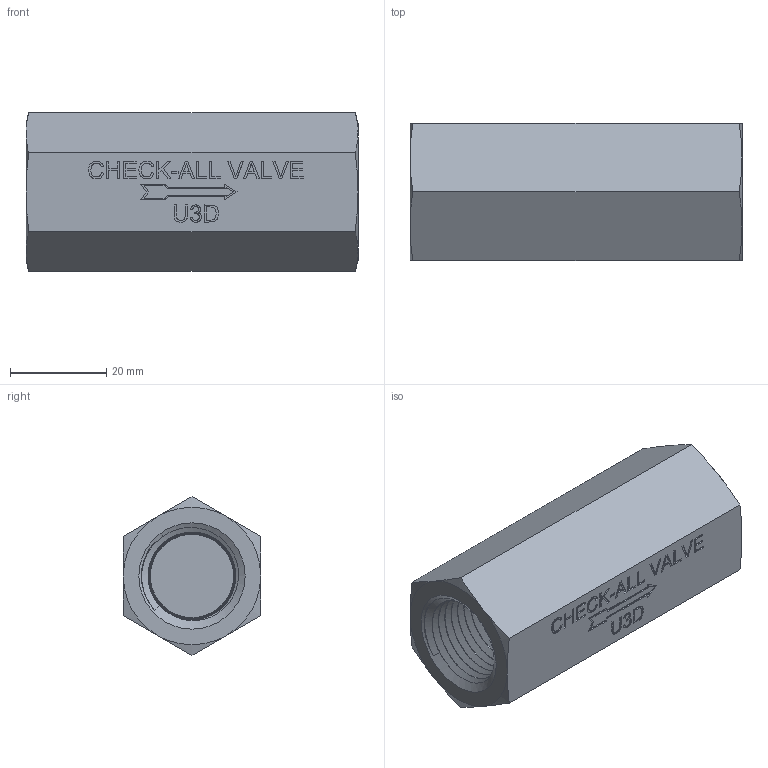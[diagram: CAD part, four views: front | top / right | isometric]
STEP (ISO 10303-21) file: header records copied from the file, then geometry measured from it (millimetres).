
FILE_DESCRIPTION( ( 'Unknown' ), '1' );
FILE_NAME( 'Y:/ENGR/3D Solid Edge Models/U3/U3-PRT/U3D.stp', 'Unknown', ( 'Unknown' ), ( 'Unknown' ), 'PSStep 14.0', 'Unknown', ' ' );
FILE_SCHEMA( ( 'AUTOMOTIVE_DESIGN { 1 0 10303 214 1 1 1 1 }' ) );
Length unit declared in the file: inch
Products named in the file (1): 1
Bounding box: 69.01 x 28.57 x 33 mm (x, y, z)
Volume: 39766.4 mm3; surface area: 11414.5 mm2
Topology: 1 solids, 1 shells, 216 faces, 552 edges, 362 vertices
Faces by surface type: extrusion 130, plane 58, cone 16, bspline 12
Entity records: 16882 total; most frequent: CARTESIAN_POINT 10339, ORIENTED_EDGE 1096, DIRECTION 644, EDGE_CURVE 548, VECTOR 462, VERTEX_POINT 360, LINE 332, B_SPLINE_CURVE_WITH_KNOTS 330
